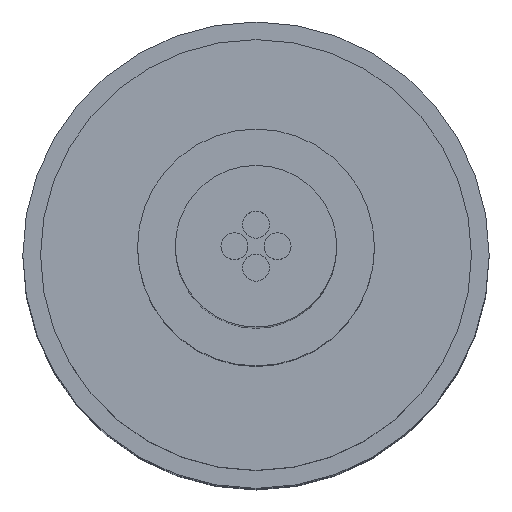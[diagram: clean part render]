
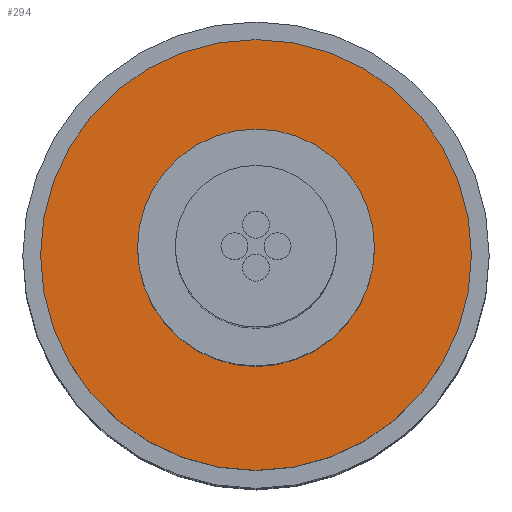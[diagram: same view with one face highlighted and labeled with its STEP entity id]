
A CAD part, top view. The second image highlights one B-rep face of the part: STEP entity #294.
In plain terms, the highlighted planar face has unit normal (0, 0, 1) as drawn and (-1, 0, 0) by its records, which use the part's own axes.
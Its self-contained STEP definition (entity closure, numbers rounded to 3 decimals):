
#266 = VERTEX_POINT ( 'NONE', #847 ) ;
#268 = EDGE_CURVE ( 'NONE', #266, #269, #846, .T. ) ;
#269 = VERTEX_POINT ( 'NONE', #841 ) ;
#288 = ORIENTED_EDGE ( 'NONE', *, *, #268, .F. ) ;
#291 = EDGE_CURVE ( 'NONE', #269, #266, #873, .T. ) ;
#292 = EDGE_LOOP ( 'NONE', ( #295, #300 ) ) ;
#293 = ORIENTED_EDGE ( 'NONE', *, *, #291, .F. ) ;
#294 = ADVANCED_FACE ( 'NONE', ( #868, #867 ), #866, .F. ) ;
#295 = ORIENTED_EDGE ( 'NONE', *, *, #296, .F. ) ;
#296 = EDGE_CURVE ( 'NONE', #298, #303, #861, .T. ) ;
#297 = EDGE_CURVE ( 'NONE', #303, #298, #856, .T. ) ;
#298 = VERTEX_POINT ( 'NONE', #851 ) ;
#300 = ORIENTED_EDGE ( 'NONE', *, *, #297, .F. ) ;
#301 = EDGE_LOOP ( 'NONE', ( #293, #288 ) ) ;
#303 = VERTEX_POINT ( 'NONE', #914 ) ;
#841 = CARTESIAN_POINT ( 'NONE',  ( 47., 0., -0.5 ) ) ;
#842 = DIRECTION ( 'NONE',  ( 0., 0., -1. ) ) ;
#843 = DIRECTION ( 'NONE',  ( -1., 0., 0. ) ) ;
#844 = CARTESIAN_POINT ( 'NONE',  ( 47., 0., 0. ) ) ;
#845 = AXIS2_PLACEMENT_3D ( 'NONE', #844, #843, #842 ) ;
#846 = CIRCLE ( 'NONE', #845, 0.5 ) ;
#847 = CARTESIAN_POINT ( 'NONE',  ( 47., 0., 0.5 ) ) ;
#851 = CARTESIAN_POINT ( 'NONE',  ( 47., 0., 2. ) ) ;
#852 = DIRECTION ( 'NONE',  ( 0., 0., -1. ) ) ;
#853 = DIRECTION ( 'NONE',  ( 1., 0., 0. ) ) ;
#854 = CARTESIAN_POINT ( 'NONE',  ( 47., 0., 0. ) ) ;
#855 = AXIS2_PLACEMENT_3D ( 'NONE', #854, #853, #852 ) ;
#856 = CIRCLE ( 'NONE', #855, 2. ) ;
#857 = DIRECTION ( 'NONE',  ( 0., 0., -1. ) ) ;
#858 = DIRECTION ( 'NONE',  ( 1., 0., 0. ) ) ;
#859 = CARTESIAN_POINT ( 'NONE',  ( 47., 0., 0. ) ) ;
#860 = AXIS2_PLACEMENT_3D ( 'NONE', #859, #858, #857 ) ;
#861 = CIRCLE ( 'NONE', #860, 2. ) ;
#862 = DIRECTION ( 'NONE',  ( 0., 0., -1. ) ) ;
#863 = DIRECTION ( 'NONE',  ( 1., 0., 0. ) ) ;
#864 = CARTESIAN_POINT ( 'NONE',  ( 47., 0., 0. ) ) ;
#865 = AXIS2_PLACEMENT_3D ( 'NONE', #864, #863, #862 ) ;
#866 = PLANE ( 'NONE',  #865 ) ;
#867 = FACE_BOUND ( 'NONE', #301, .T. ) ;
#868 = FACE_OUTER_BOUND ( 'NONE', #292, .T. ) ;
#869 = DIRECTION ( 'NONE',  ( 0., 0., -1. ) ) ;
#870 = DIRECTION ( 'NONE',  ( -1., 0., 0. ) ) ;
#871 = CARTESIAN_POINT ( 'NONE',  ( 47., 0., 0. ) ) ;
#872 = AXIS2_PLACEMENT_3D ( 'NONE', #871, #870, #869 ) ;
#873 = CIRCLE ( 'NONE', #872, 0.5 ) ;
#914 = CARTESIAN_POINT ( 'NONE',  ( 47., 0., -2. ) ) ;
